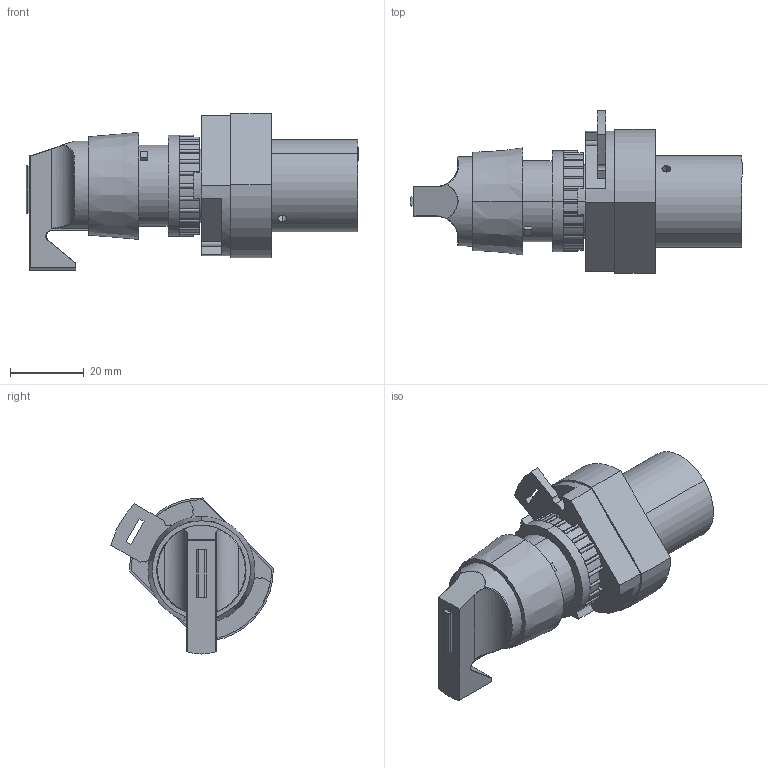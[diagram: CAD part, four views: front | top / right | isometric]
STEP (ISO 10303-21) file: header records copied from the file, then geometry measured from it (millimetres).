
FILE_DESCRIPTION (( 'STEP AP203' ), '1' );
FILE_NAME ('18-T-23-013_T-30-310-Airtec.step', '2006-10-31T13:14:58', ( 'Gustaf Hederström' ), ( 'Cevican AB' ), 'SwSTEP 2.0', 'SolidWorks 2002308', '' );
FILE_SCHEMA (( 'CONFIG_CONTROL_DESIGN' ));
Length unit declared in the file: millimetre
Products named in the file (3): 18-T-23-013-Airtec; T-30-310-Airtec; 18-T-23-013_T-30-310-Airtec
Assembly tree (2 placements, depth 2):
  18-T-23-013_T-30-310-Airtec
    18-T-23-013-Airtec
    T-30-310-Airtec
Bounding box: 90 x 44.09 x 42.3 mm (x, y, z)
Volume: 48120.7 mm3; surface area: 13977 mm2
Topology: 2 solids, 2 shells, 350 faces, 942 edges, 598 vertices
Faces by surface type: cylinder 180, plane 139, bspline 23, cone 8
Entity records: 12822 total; most frequent: CARTESIAN_POINT 3605, DIRECTION 1971, ORIENTED_EDGE 1856, EDGE_CURVE 928, AXIS2_PLACEMENT_3D 759, VERTEX_POINT 598, LINE 453, VECTOR 453
